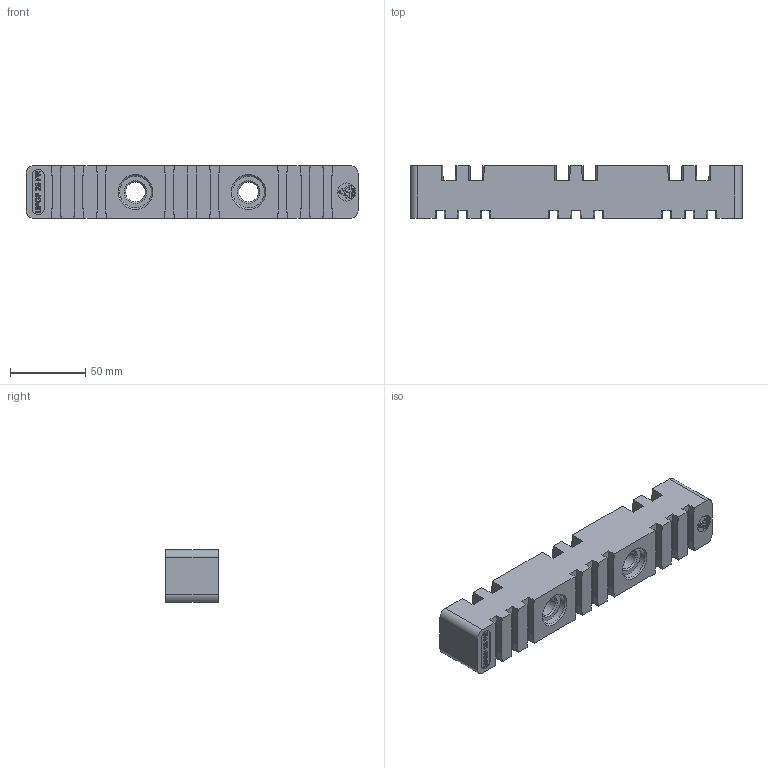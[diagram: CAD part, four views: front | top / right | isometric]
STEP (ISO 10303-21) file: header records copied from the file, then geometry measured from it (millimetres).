
FILE_DESCRIPTION (( 'STEP AP214' ), '1' );
FILE_NAME ('Èçîëÿòîð øèííûé ïëîñêèé OptiIsol ÈØÏ-220-3-5-8.STEP', '2024-07-29T11:32:57', ( '' ), ( '' ), 'SwSTEP 2.0', 'SolidWorks 2018', '' );
FILE_SCHEMA (( 'AUTOMOTIVE_DESIGN' ));
Length unit declared in the file: millimetre
Products named in the file (1): Èçîëÿòîð øèííûé ïëîñêèé OptiIsol ÈØÏ-220-3-5-8
Bounding box: 220 x 35.4 x 35 mm (x, y, z)
Volume: 227484.8 mm3; surface area: 41157.3 mm2
Topology: 1 solids, 1 shells, 919 faces, 2544 edges, 1696 vertices
Faces by surface type: plane 546, bspline 263, cylinder 94, cone 16
Entity records: 37778 total; most frequent: CARTESIAN_POINT 16299, ORIENTED_EDGE 5088, DIRECTION 3312, EDGE_CURVE 2544, LINE 1798, VECTOR 1798, VERTEX_POINT 1696, EDGE_LOOP 992
